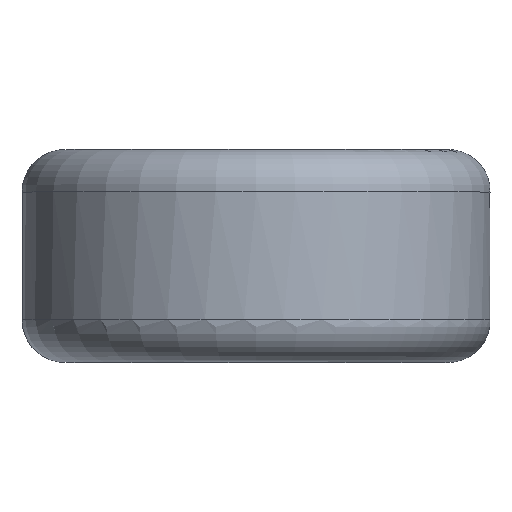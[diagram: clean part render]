
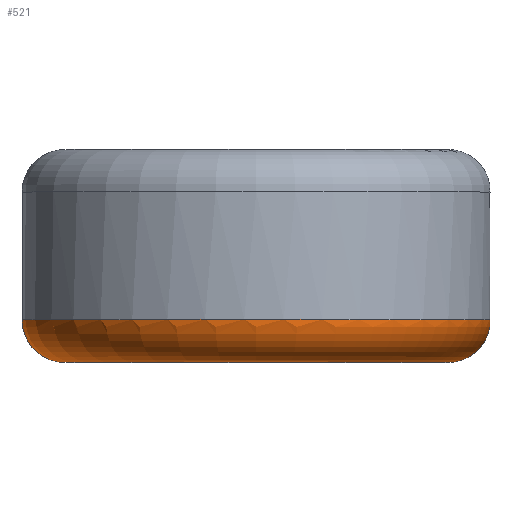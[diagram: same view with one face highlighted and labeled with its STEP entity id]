
A CAD part, top view. The second image highlights one B-rep face of the part: STEP entity #521.
In plain terms, the highlighted toroidal (fillet/blend) face has major radius 4.5 mm and minor radius 1 mm.
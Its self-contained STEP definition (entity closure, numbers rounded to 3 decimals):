
#82=FACE_OUTER_BOUND('',#112,.T.);
#112=EDGE_LOOP('',(#433,#434,#435,#436,#437,#438,#439,#440));
#151=CIRCLE('',#590,4.5);
#152=CIRCLE('',#591,1.);
#153=CIRCLE('',#592,5.5);
#154=CIRCLE('',#593,5.5);
#155=CIRCLE('',#594,5.5);
#156=CIRCLE('',#595,4.5);
#195=B_SPLINE_CURVE_WITH_KNOTS('',3,(#2141,#2142,#2143,#2144,#2145,#2146),
 .UNSPECIFIED.,.F.,.F.,(4,2,4),(-0.069,-0.026,
0.),.UNSPECIFIED.);
#231=VERTEX_POINT('',#1808);
#239=VERTEX_POINT('',#2020);
#243=VERTEX_POINT('',#2418);
#244=VERTEX_POINT('',#2419);
#245=VERTEX_POINT('',#2421);
#246=VERTEX_POINT('',#2424);
#308=EDGE_CURVE('',#231,#239,#195,.T.);
#313=EDGE_CURVE('',#243,#244,#151,.T.);
#314=EDGE_CURVE('',#244,#245,#152,.T.);
#315=EDGE_CURVE('',#245,#239,#153,.T.);
#316=EDGE_CURVE('',#231,#246,#154,.T.);
#317=EDGE_CURVE('',#246,#245,#155,.T.);
#318=EDGE_CURVE('',#244,#243,#156,.T.);
#433=ORIENTED_EDGE('',*,*,#313,.T.);
#434=ORIENTED_EDGE('',*,*,#314,.T.);
#435=ORIENTED_EDGE('',*,*,#315,.T.);
#436=ORIENTED_EDGE('',*,*,#308,.F.);
#437=ORIENTED_EDGE('',*,*,#316,.T.);
#438=ORIENTED_EDGE('',*,*,#317,.T.);
#439=ORIENTED_EDGE('',*,*,#314,.F.);
#440=ORIENTED_EDGE('',*,*,#318,.T.);
#503=TOROIDAL_SURFACE('',#589,4.5,1.);
#521=ADVANCED_FACE('',(#82),#503,.T.);
#589=AXIS2_PLACEMENT_3D('',#2417,#694,#695);
#590=AXIS2_PLACEMENT_3D('',#2420,#696,#697);
#591=AXIS2_PLACEMENT_3D('',#2422,#698,#699);
#592=AXIS2_PLACEMENT_3D('',#2423,#700,#701);
#593=AXIS2_PLACEMENT_3D('',#2425,#702,#703);
#594=AXIS2_PLACEMENT_3D('',#2426,#704,#705);
#595=AXIS2_PLACEMENT_3D('',#2427,#706,#707);
#694=DIRECTION('center_axis',(0.,-1.,0.));
#695=DIRECTION('ref_axis',(0.,0.,1.));
#696=DIRECTION('center_axis',(0.,1.,0.));
#697=DIRECTION('ref_axis',(-1.,0.,0.));
#698=DIRECTION('center_axis',(1.,0.,0.));
#699=DIRECTION('ref_axis',(0.,0.,-1.));
#700=DIRECTION('center_axis',(0.,-1.,0.));
#701=DIRECTION('ref_axis',(-1.,0.,0.));
#702=DIRECTION('center_axis',(0.,-1.,0.));
#703=DIRECTION('ref_axis',(-1.,0.,0.));
#704=DIRECTION('center_axis',(0.,-1.,0.));
#705=DIRECTION('ref_axis',(-1.,0.,0.));
#706=DIRECTION('center_axis',(0.,1.,0.));
#707=DIRECTION('ref_axis',(-1.,0.,0.));
#1808=CARTESIAN_POINT('',(2.596,-1.5,-4.849));
#2020=CARTESIAN_POINT('',(2.018,-1.5,-5.116));
#2141=CARTESIAN_POINT('Ctrl Pts',(2.596,-1.5,-4.849));
#2142=CARTESIAN_POINT('Ctrl Pts',(2.489,-1.55,-4.906));
#2143=CARTESIAN_POINT('Ctrl Pts',(2.362,-1.571,-4.966));
#2144=CARTESIAN_POINT('Ctrl Pts',(2.163,-1.55,-5.056));
#2145=CARTESIAN_POINT('Ctrl Pts',(2.088,-1.53,-5.089));
#2146=CARTESIAN_POINT('Ctrl Pts',(2.018,-1.5,-5.116));
#2417=CARTESIAN_POINT('Origin',(0.,-1.5,0.));
#2418=CARTESIAN_POINT('',(4.5,-2.5,0.));
#2419=CARTESIAN_POINT('',(0.,-2.5,-4.5));
#2420=CARTESIAN_POINT('Origin',(0.,-2.5,0.));
#2421=CARTESIAN_POINT('',(0.,-1.5,-5.5));
#2422=CARTESIAN_POINT('Origin',(0.,-1.5,-4.5));
#2423=CARTESIAN_POINT('Origin',(0.,-1.5,0.));
#2424=CARTESIAN_POINT('',(-5.5,-1.5,0.));
#2425=CARTESIAN_POINT('Origin',(0.,-1.5,0.));
#2426=CARTESIAN_POINT('Origin',(0.,-1.5,0.));
#2427=CARTESIAN_POINT('Origin',(0.,-2.5,0.));
